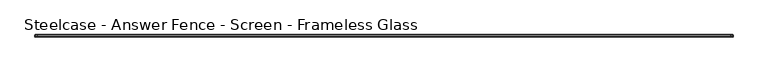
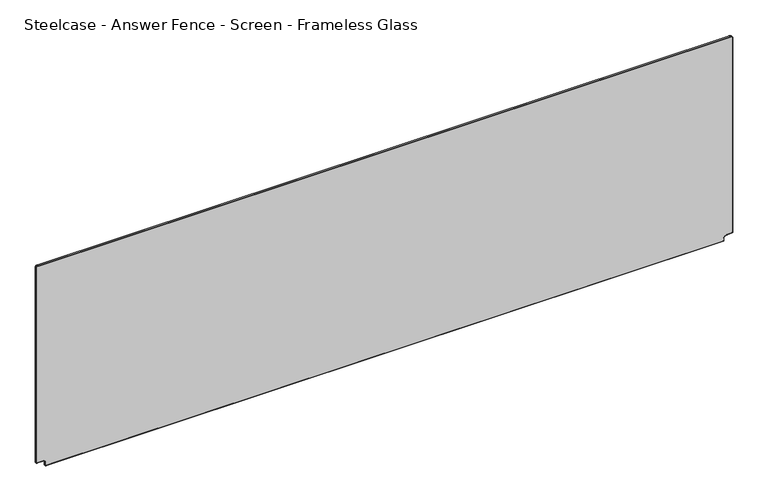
"""IFC4 building model written with IfcOpenShell, lengths in millimetres: furniture geometry, Steelcase - Answer Fence - Screen - Frameless Glass : 72W x 19.5H."""

from ifc_helpers import new_model, si_unit, point, frame, origin, place, context, project, spatial, polyline, circle_curve, ellipse_curve, trimmed, source, transform, mapped, element, save
from ifc_brep_helpers import plane_surface, cylinder_surface, revolved_surface, advanced_brep


def steelcase_answer_fence_screen_frameless_glass_d0bd91fb(model_context):
    return source(origin(), model_context, "Body", "AdvancedBrep", [
        advanced_brep(
        [(-37.0835407, 0.0, 1236.4547231), (-37.0835407, 0.0, 696.7219419), (-21.2706399, 0.0, 696.7219419), (-12.9550716, 0.0, 688.4063736), (-12.9550716, 0.0, 681.6832625), (1765.5535698, 0.0, 681.6832625), (1765.5535698, 0.0, 688.3723612), (1773.9031504, 0.0, 696.7219419), (1789.6835407, 0.0, 696.7219419), (1789.6835407, 0.0, 1236.4335847), (1785.137377, 0.0, 1241.0020651), (-32.5585153, 0.0, 1240.9797485), (-32.5585153, 5.9942078, 1241.0018434), (1785.137377, 5.9942078, 1241.0018434), (1789.7056357, 5.9942078, 1236.4335847), (1789.7056357, 5.9942078, 696.7219419), (1773.9031504, 5.9942078, 696.6998469), (1765.5535698, 5.9942078, 688.3723612), (1765.5756647, 5.9942078, 681.6832625), (-12.9550716, 5.9942078, 681.6611675), (-12.9771666, 5.9942078, 688.4063736), (-21.2706399, 5.9942078, 696.7219419), (-37.0835407, 5.9942078, 696.6998469), (-37.1056357, 5.9942078, 1236.4547231), (-38.1106579, 1.0158976, 1236.4547231), (-32.5585153, 1.0158976, 1242.0068656), (-32.5585153, 4.9781981, 1242.0068656), (-38.1106579, 4.9781981, 1236.4547231), (-38.1106579, 1.0158976, 695.6948247), (-38.1106579, 4.9781981, 695.6948247), (-21.2706399, 1.0158976, 695.6948247), (-21.2706399, 4.9781981, 695.6948247), (-13.9821888, 1.0158976, 688.4063736), (-13.9821888, 4.9781981, 688.4063736), (-13.9821888, 1.0158976, 680.6561453), (-13.9821888, 4.9781981, 680.6561453), (1766.580687, 1.0158976, 680.6561453), (1766.580687, 4.9781981, 680.6561453), (1766.580687, 1.0158976, 688.3723612), (1766.580687, 4.9781981, 688.3723612), (1773.9031504, 1.0158976, 695.6948247), (1773.9031504, 4.9781981, 695.6948247), (1790.7106579, 1.0158976, 695.6948247), (1790.7106579, 4.9781981, 695.6948247), (1790.7106579, 1.0158976, 1236.4335847), (1790.7106579, 4.9781981, 1236.4335847), (1785.137377, 1.0158976, 1242.0068656), (1785.137377, 4.9781981, 1242.0068656)],
        [
            (0, 1),
            (1, 2),
            (2, 3, circle_curve(frame((-21.2706399, 0.0, 688.4063736), z_axis=(0.0, 1.0, 0.0), x_axis=(0.0, 0.0, 1.0)), 8.3155683)),
            (3, 4),
            (4, 5),
            (5, 6),
            (6, 7, circle_curve(frame((1773.9031504, 0.0, 688.3723612), z_axis=(0.0, 1.0, 0.0), x_axis=(-1.0, 0.0, 0.0)), 8.3495806)),
            (7, 8),
            (8, 9),
            (9, 10, circle_curve(frame((1785.137377, 0.0, 1236.4335847), z_axis=(0.0, -1.0, 0.0), x_axis=(1.0, 0.0, 0.0)), 4.5684803)),
            (10, 11),
            (11, 0, circle_curve(frame((-32.5585153, 0.0, 1236.4547231), z_axis=(0.0, -1.0, 0.0), x_axis=(0.0, 0.0, 1.0)), 4.547342)),
            (12, 13),
            (13, 14, circle_curve(frame((1785.137377, 5.9942078, 1236.4335847), z_axis=(0.0, 1.0, 0.0), x_axis=(1.0, 0.0, 0.0)), 4.5682587)),
            (14, 15),
            (15, 16),
            (16, 17, circle_curve(frame((1773.9031504, 5.9942078, 688.3723612), z_axis=(0.0, -1.0, 0.0), x_axis=(-1.0, 0.0, 0.0)), 8.3495806)),
            (17, 18),
            (18, 19),
            (19, 20),
            (20, 21, circle_curve(frame((-21.2706399, 5.9942078, 688.4063736), z_axis=(0.0, -1.0, 0.0), x_axis=(0.0, 0.0, 1.0)), 8.3155683)),
            (21, 22),
            (22, 23),
            (23, 12, circle_curve(frame((-32.5585153, 5.9942078, 1236.4547231), z_axis=(0.0, 1.0, 0.0), x_axis=(0.0, 0.0, 1.0)), 4.5471204)),
            (24, 0, circle_curve(frame((-37.094699, 1.0158976, 1236.4547231), z_axis=(0.0, 0.0, 1.0), x_axis=(1.0, 0.0, 0.0)), 1.0159589)),
            (11, 25, circle_curve(frame((-32.5585153, 1.0158976, 1240.9909068), z_axis=(-1.0, 0.0, 0.0), x_axis=(0.0, 0.0, -1.0)), 1.0159589)),
            (25, 24, circle_curve(frame((-32.5585153, 1.0158976, 1236.4547231), z_axis=(0.0, -1.0, 0.0), x_axis=(0.0, 0.0, 1.0)), 5.5521426)),
            (25, 26),
            (26, 27, circle_curve(frame((-32.5585153, 4.9781981, 1236.4547231), z_axis=(0.0, -1.0, 0.0), x_axis=(0.0, 0.0, 1.0)), 5.5521426)),
            (27, 24),
            (26, 12, circle_curve(frame((-32.5585153, 4.9781981, 1240.990796), z_axis=(-1.0, 0.0, 0.0), x_axis=(0.0, 0.0, -1.0)), 1.0160697)),
            (23, 27, circle_curve(frame((-37.0945882, 4.9781981, 1236.4547231), z_axis=(0.0, 0.0, 1.0), x_axis=(1.0, 0.0, 0.0)), 1.0160697)),
            (24, 28),
            (28, 1, ellipse_curve(frame((-37.094699, 1.0158976, 696.7107836), z_axis=(-0.7071067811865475, 0.0, 0.7071067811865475), x_axis=(0.7071067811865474, 0.0, 0.7071067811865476)), 1.4367828, 1.0159589)),
            (27, 29),
            (29, 28),
            (22, 29, ellipse_curve(frame((-37.0945882, 4.9781981, 696.7108944), z_axis=(-0.7071067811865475, 0.0, 0.7071067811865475), x_axis=(0.7071067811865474, 0.0, 0.7071067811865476)), 1.4369395, 1.0160697)),
            (28, 30),
            (30, 2, circle_curve(frame((-21.2706399, 1.0158976, 696.7107836), z_axis=(-1.0, 0.0, 0.0), x_axis=(0.0, 0.0, 1.0)), 1.0159589)),
            (29, 31),
            (31, 30),
            (21, 31, circle_curve(frame((-21.2706399, 4.9781981, 696.7108944), z_axis=(-1.0, 0.0, 0.0), x_axis=(0.0, 0.0, 1.0)), 1.0160697)),
            (30, 32, circle_curve(frame((-21.2706399, 1.0158976, 688.4063736), z_axis=(0.0, 1.0, 0.0), x_axis=(0.0, 0.0, 1.0)), 7.2884511)),
            (32, 3, circle_curve(frame((-12.9662299, 1.0158976, 688.4063736), z_axis=(0.0, 0.0, 1.0), x_axis=(1.0, 0.0, 0.0)), 1.0159589)),
            (31, 33, circle_curve(frame((-21.2706399, 4.9781981, 688.4063736), z_axis=(0.0, 1.0, 0.0), x_axis=(0.0, 0.0, 1.0)), 7.2884511)),
            (33, 32),
            (20, 33, circle_curve(frame((-12.9661191, 4.9781981, 688.4063736), z_axis=(0.0, 0.0, 1.0), x_axis=(1.0, 0.0, 0.0)), 1.0160697)),
            (32, 34),
            (34, 4, ellipse_curve(frame((-12.9662299, 1.0158976, 681.6721042), z_axis=(-0.7071067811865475, 0.0, 0.7071067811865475), x_axis=(0.7071067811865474, 0.0, 0.7071067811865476)), 1.4367828, 1.0159589)),
            (33, 35),
            (35, 34),
            (19, 35, ellipse_curve(frame((-12.9661191, 4.9781981, 681.672215), z_axis=(-0.7071067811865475, 0.0, 0.7071067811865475), x_axis=(0.7071067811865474, 0.0, 0.7071067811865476)), 1.4369395, 1.0160697)),
            (34, 36),
            (36, 5, ellipse_curve(frame((1765.5647281, 1.0158976, 681.6721042), z_axis=(-0.7071067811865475, 0.0, -0.7071067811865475), x_axis=(-0.7071067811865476, 0.0, 0.7071067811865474)), 1.4367828, 1.0159589)),
            (35, 37),
            (37, 36),
            (18, 37, ellipse_curve(frame((1765.5646173, 4.9781981, 681.672215), z_axis=(-0.7071067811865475, 0.0, -0.7071067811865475), x_axis=(-0.7071067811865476, 0.0, 0.7071067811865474)), 1.4369395, 1.0160697)),
            (36, 38),
            (38, 6, circle_curve(frame((1765.5647281, 1.0158976, 688.3723612), z_axis=(0.0, 0.0, -1.0), x_axis=(-1.0, 0.0, 0.0)), 1.0159589)),
            (37, 39),
            (39, 38),
            (17, 39, circle_curve(frame((1765.5646173, 4.9781981, 688.3723612), z_axis=(0.0, 0.0, -1.0), x_axis=(-1.0, 0.0, 0.0)), 1.0160697)),
            (38, 40, circle_curve(frame((1773.9031504, 1.0158976, 688.3723612), z_axis=(0.0, 1.0, 0.0), x_axis=(-1.0, 0.0, 0.0)), 7.3224635)),
            (40, 7, circle_curve(frame((1773.9031504, 1.0158976, 696.7107836), z_axis=(-1.0, 0.0, 0.0), x_axis=(0.0, 0.0, 1.0)), 1.0159589)),
            (39, 41, circle_curve(frame((1773.9031504, 4.9781981, 688.3723612), z_axis=(0.0, 1.0, 0.0), x_axis=(-1.0, 0.0, 0.0)), 7.3224635)),
            (41, 40),
            (16, 41, circle_curve(frame((1773.9031504, 4.9781981, 696.7108944), z_axis=(-1.0, 0.0, 0.0), x_axis=(0.0, 0.0, 1.0)), 1.0160697)),
            (40, 42),
            (42, 8, ellipse_curve(frame((1789.694699, 1.0158976, 696.7107836), z_axis=(-0.7071067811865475, 0.0, -0.7071067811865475), x_axis=(-0.7071067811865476, 0.0, 0.7071067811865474)), 1.4367828, 1.0159589)),
            (41, 43),
            (43, 42),
            (15, 43, ellipse_curve(frame((1789.6945882, 4.9781981, 696.7108944), z_axis=(-0.7071067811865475, 0.0, -0.7071067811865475), x_axis=(-0.7071067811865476, 0.0, 0.7071067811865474)), 1.4369395, 1.0160697)),
            (42, 44),
            (44, 9, circle_curve(frame((1789.694699, 1.0158976, 1236.4335847), z_axis=(0.0, 0.0, -1.0), x_axis=(-1.0, 0.0, 0.0)), 1.0159589)),
            (43, 45),
            (45, 44),
            (14, 45, circle_curve(frame((1789.6945882, 4.9781981, 1236.4335847), z_axis=(0.0, 0.0, -1.0), x_axis=(-1.0, 0.0, 0.0)), 1.0160697)),
            (44, 46, circle_curve(frame((1785.137377, 1.0158976, 1236.4335847), z_axis=(0.0, -1.0, 0.0), x_axis=(1.0, 0.0, 0.0)), 5.5732809)),
            (46, 10, circle_curve(frame((1785.137377, 1.0158976, 1240.9909068), z_axis=(1.0, 0.0, 0.0), x_axis=(0.0, 0.0, -1.0)), 1.0159589)),
            (45, 47, circle_curve(frame((1785.137377, 4.9781981, 1236.4335847), z_axis=(0.0, -1.0, 0.0), x_axis=(1.0, 0.0, 0.0)), 5.5732809)),
            (47, 46),
            (13, 47, circle_curve(frame((1785.137377, 4.9781981, 1240.990796), z_axis=(1.0, 0.0, 0.0), x_axis=(0.0, 0.0, -1.0)), 1.0160697)),
            (46, 25),
            (47, 26),
        ],
        [
            plane_surface(frame((-32.5585153, 0.0, 1240.9797485), z_axis=(0.0, -1.0, 0.0), x_axis=(1.0, 0.0, 0.0))),
            plane_surface(frame((-32.5585153, 5.9942078, 1240.9797485), z_axis=(0.0, 1.0, 0.0), x_axis=(-1.0, 0.0, 0.0))),
            revolved_surface(trimmed(ellipse_curve(frame((-32.5585153, 1.0158976, 1240.9909068), z_axis=(-1.0, 0.0, 0.0), x_axis=(0.0, 0.0, -1.0)), 1.0159589, 1.0159589), [point((-32.5585153, 0.0, 1240.9797485))], [point((-32.5585153, 1.0158976, 1242.0068656))], True, "CARTESIAN"), (-32.5585153, 5.9942078, 1236.4547231), (0.0, 1.0, 0.0)),
            cylinder_surface(frame((-32.5585153, 5.9942078, 1236.4547231), z_axis=(0.0, 1.0, 0.0), x_axis=(0.0, 0.0, 1.0)), 5.5521426),
            revolved_surface(trimmed(ellipse_curve(frame((-32.5585153, 4.9781981, 1240.990796), z_axis=(-1.0, 0.0, 0.0), x_axis=(0.0, 0.0, -1.0)), 1.0160697, 1.0160697), [point((-32.5585153, 4.9781981, 1242.0068656))], [point((-32.5585153, 5.9942078, 1240.9797485))], True, "CARTESIAN"), (-32.5585153, 5.9942078, 1236.4547231), (0.0, 1.0, 0.0)),
            cylinder_surface(frame((-37.094699, 1.0158976, 1236.4547231), z_axis=(0.0, 0.0, 1.0), x_axis=(1.0, 0.0, 0.0)), 1.0159589),
            plane_surface(frame((-38.1106579, 1.0158976, 1236.4547231), z_axis=(-1.0, 0.0, 0.0), x_axis=(0.0, 0.0, -1.0))),
            cylinder_surface(frame((-37.0945882, 4.9781981, 1236.4547231), z_axis=(0.0, 0.0, 1.0), x_axis=(1.0, 0.0, 0.0)), 1.0160697),
            cylinder_surface(frame((-37.0835407, 1.0158976, 696.7107836), z_axis=(-1.0, 0.0, 0.0), x_axis=(0.0, 0.0, 1.0)), 1.0159589),
            plane_surface(frame((-38.1106579, 1.0158976, 695.6948247), z_axis=(0.0, 0.0, -1.0), x_axis=(1.0, 0.0, 0.0))),
            cylinder_surface(frame((-37.0835407, 4.9781981, 696.7108944), z_axis=(-1.0, 0.0, 0.0), x_axis=(0.0, 0.0, 1.0)), 1.0160697),
            revolved_surface(trimmed(ellipse_curve(frame((-21.2706399, 1.0158976, 696.7107836), z_axis=(1.0, 0.0, 0.0), x_axis=(0.0, 0.0, 1.0)), 1.0159589, 1.0159589), [point((-21.2706399, 0.0, 696.7219419))], [point((-21.2706399, 1.0158976, 695.6948247))], True, "CARTESIAN"), (-21.2706399, 5.9942078, 688.4063736), (0.0, -1.0, 0.0)),
            revolved_surface(polyline([(-21.2706399, 1.0158975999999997, 695.6948247), (-21.2706399, 4.9781981, 695.6948247)]), (-21.2706399, 5.9942078, 688.4063736), (0.0, -1.0, 0.0)),
            revolved_surface(trimmed(ellipse_curve(frame((-21.2706399, 4.9781981, 696.7108944), z_axis=(1.0, 0.0, 0.0), x_axis=(0.0, 0.0, 1.0)), 1.0160697, 1.0160697), [point((-21.2706399, 4.9781981, 695.6948247))], [point((-21.2706399, 5.9942078, 696.7219419))], True, "CARTESIAN"), (-21.2706399, 5.9942078, 688.4063736), (0.0, -1.0, 0.0)),
            cylinder_surface(frame((-12.9662299, 1.0158976, 688.4063736), z_axis=(0.0, 0.0, 1.0), x_axis=(1.0, 0.0, 0.0)), 1.0159589),
            plane_surface(frame((-13.9821888, 1.0158976, 688.4063736), z_axis=(-1.0, 0.0, 0.0), x_axis=(0.0, 0.0, -1.0))),
            cylinder_surface(frame((-12.9661191, 4.9781981, 688.4063736), z_axis=(0.0, 0.0, 1.0), x_axis=(1.0, 0.0, 0.0)), 1.0160697),
            cylinder_surface(frame((-12.9550716, 1.0158976, 681.6721042), z_axis=(-1.0, 0.0, 0.0), x_axis=(0.0, 0.0, 1.0)), 1.0159589),
            plane_surface(frame((-13.9821888, 1.0158976, 680.6561453), z_axis=(0.0, 0.0, -1.0), x_axis=(1.0, 0.0, 0.0))),
            cylinder_surface(frame((-12.9550716, 4.9781981, 681.672215), z_axis=(-1.0, 0.0, 0.0), x_axis=(0.0, 0.0, 1.0)), 1.0160697),
            cylinder_surface(frame((1765.5647281, 1.0158976, 681.6832625), z_axis=(0.0, 0.0, -1.0), x_axis=(-1.0, 0.0, 0.0)), 1.0159589),
            plane_surface(frame((1766.580687, 1.0158976, 680.6561453), z_axis=(1.0, 0.0, 0.0), x_axis=(0.0, 0.0, 1.0))),
            cylinder_surface(frame((1765.5646173, 4.9781981, 681.6832625), z_axis=(0.0, 0.0, -1.0), x_axis=(-1.0, 0.0, 0.0)), 1.0160697),
            revolved_surface(trimmed(ellipse_curve(frame((1765.5647281, 1.0158976, 688.3723612), z_axis=(0.0, 0.0, 1.0), x_axis=(-1.0, 0.0, 0.0)), 1.0159589, 1.0159589), [point((1765.5535698, 0.0, 688.3723612))], [point((1766.580687, 1.0158976, 688.3723612))], True, "CARTESIAN"), (1773.9031504, 5.9942078, 688.3723612), (0.0, -1.0, 0.0)),
            revolved_surface(polyline([(1766.5806869, 1.0158975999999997, 688.3723612), (1766.5806869, 4.9781981, 688.3723612)]), (1773.9031504, 5.9942078, 688.3723612), (0.0, -1.0, 0.0)),
            revolved_surface(trimmed(ellipse_curve(frame((1765.5646173, 4.9781981, 688.3723612), z_axis=(0.0, 0.0, 1.0), x_axis=(-1.0, 0.0, 0.0)), 1.0160697, 1.0160697), [point((1766.580687, 4.9781981, 688.3723612))], [point((1765.5535698, 5.9942078, 688.3723612))], True, "CARTESIAN"), (1773.9031504, 5.9942078, 688.3723612), (0.0, -1.0, 0.0)),
            cylinder_surface(frame((1773.9031504, 1.0158976, 696.7107836), z_axis=(-1.0, 0.0, 0.0), x_axis=(0.0, 0.0, 1.0)), 1.0159589),
            plane_surface(frame((1773.9031504, 1.0158976, 695.6948247), z_axis=(0.0, 0.0, -1.0), x_axis=(1.0, 0.0, 0.0))),
            cylinder_surface(frame((1773.9031504, 4.9781981, 696.7108944), z_axis=(-1.0, 0.0, 0.0), x_axis=(0.0, 0.0, 1.0)), 1.0160697),
            cylinder_surface(frame((1789.694699, 1.0158976, 696.7219419), z_axis=(0.0, 0.0, -1.0), x_axis=(-1.0, 0.0, 0.0)), 1.0159589),
            plane_surface(frame((1790.7106579, 1.0158976, 695.6948247), z_axis=(1.0, 0.0, 0.0), x_axis=(0.0, 0.0, 1.0))),
            cylinder_surface(frame((1789.6945882, 4.9781981, 696.7219419), z_axis=(0.0, 0.0, -1.0), x_axis=(-1.0, 0.0, 0.0)), 1.0160697),
            revolved_surface(trimmed(ellipse_curve(frame((1789.694699, 1.0158976, 1236.4335847), z_axis=(0.0, 0.0, 1.0), x_axis=(-1.0, 0.0, 0.0)), 1.0159589, 1.0159589), [point((1789.6835407, 0.0, 1236.4335847))], [point((1790.7106579, 1.0158976, 1236.4335847))], True, "CARTESIAN"), (1785.137377, 5.9942078, 1236.4335847), (0.0, 1.0, 0.0)),
            cylinder_surface(frame((1785.137377, 5.9942078, 1236.4335847), z_axis=(0.0, 1.0, 0.0), x_axis=(1.0, 0.0, 0.0)), 5.5732809),
            revolved_surface(trimmed(ellipse_curve(frame((1789.6945882, 4.9781981, 1236.4335847), z_axis=(0.0, 0.0, 1.0), x_axis=(-1.0, 0.0, 0.0)), 1.0160697, 1.0160697), [point((1790.7106579, 4.9781981, 1236.4335847))], [point((1789.6835407, 5.9942078, 1236.4335847))], True, "CARTESIAN"), (1785.137377, 5.9942078, 1236.4335847), (0.0, 1.0, 0.0)),
            cylinder_surface(frame((1785.137377, 1.0158976, 1240.9909068), z_axis=(1.0, 0.0, 0.0), x_axis=(0.0, 0.0, -1.0)), 1.0159589),
            plane_surface(frame((1785.137377, 1.0158976, 1242.0068656), z_axis=(0.0, 0.0, 1.0), x_axis=(-1.0, 0.0, 0.0))),
            cylinder_surface(frame((1785.137377, 4.9781981, 1240.990796), z_axis=(1.0, 0.0, 0.0), x_axis=(0.0, 0.0, -1.0)), 1.0160697),
        ],
        [
            (0, [[1, 2, 3, 4, 5, 6, 7, 8, 9, 10, 11, 12]]),
            (1, [[13, 14, 15, 16, 17, 18, 19, 20, 21, 22, 23, 24]]),
            (2, [[25, -12, 26, 27]]),
            (3, [[28, 29, 30, -27]]),
            (4, [[31, -24, 32, -29]]),
            (5, [[33, 34, -1, -25]]),
            (6, [[35, 36, -33, -30]]),
            (7, [[-23, 37, -35, -32]]),
            (8, [[38, 39, -2, -34]]),
            (9, [[40, 41, -38, -36]]),
            (10, [[-22, 42, -40, -37]]),
            (11, [[43, 44, -3, -39]]),
            (12, [[45, 46, -43, -41]]),
            (13, [[-21, 47, -45, -42]]),
            (14, [[48, 49, -4, -44]]),
            (15, [[50, 51, -48, -46]]),
            (16, [[-20, 52, -50, -47]]),
            (17, [[53, 54, -5, -49]]),
            (18, [[55, 56, -53, -51]]),
            (19, [[-19, 57, -55, -52]]),
            (20, [[58, 59, -6, -54]]),
            (21, [[60, 61, -58, -56]]),
            (22, [[-18, 62, -60, -57]]),
            (23, [[63, 64, -7, -59]]),
            (24, [[65, 66, -63, -61]]),
            (25, [[-17, 67, -65, -62]]),
            (26, [[68, 69, -8, -64]]),
            (27, [[70, 71, -68, -66]]),
            (28, [[-16, 72, -70, -67]]),
            (29, [[73, 74, -9, -69]]),
            (30, [[75, 76, -73, -71]]),
            (31, [[-15, 77, -75, -72]]),
            (32, [[78, 79, -10, -74]]),
            (33, [[80, 81, -78, -76]]),
            (34, [[-14, 82, -80, -77]]),
            (35, [[-11, -79, 83, -26]]),
            (36, [[-83, -81, 84, -28]]),
            (37, [[-84, -82, -13, -31]]),
        ],
    ),
    ])


if __name__ == "__main__":
    model = new_model("IFC4")
    model_context = context("Model", 3, world=origin())
    ifc_project = project(units=[si_unit("LENGTHUNIT", "METRE", prefix="MILLI")], contexts=[model_context])
    site = spatial("IfcSite", under=ifc_project)
    building = spatial("IfcBuilding", under=site)
    placement = place(None, origin())
    steelcase_answer_fence_screen_frameless_glass_shape = steelcase_answer_fence_screen_frameless_glass_d0bd91fb(model_context)
    element("IfcFurniture", 1, ObjectType="Steelcase - Answer Fence - Screen - Frameless Glass : 72W x 19.5H", at=placement, inside=building, context=model_context, shape_type="MappedRepresentation", body=[
        mapped(steelcase_answer_fence_screen_frameless_glass_shape, transform((0.0, 0.0, 0.0), x_axis=(1.0, 0.0, 0.0), y_axis=(0.0, 1.0, 0.0), z_axis=(0.0, 0.0, 1.0))),
    ])
    save(model, "model.ifc")
